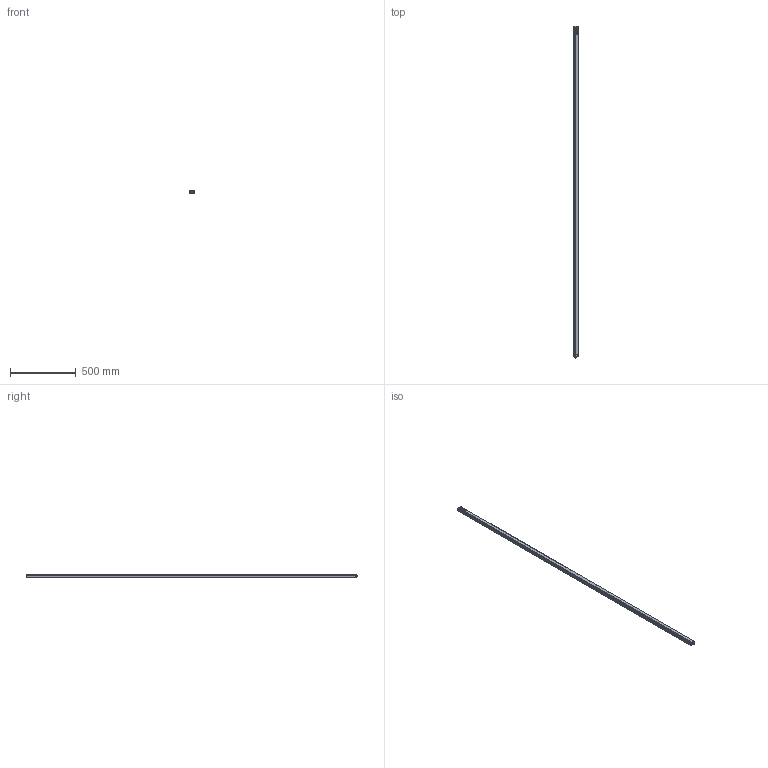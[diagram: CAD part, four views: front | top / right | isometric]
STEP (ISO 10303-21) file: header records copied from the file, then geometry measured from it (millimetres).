
FILE_DESCRIPTION(/* description */ (''),/* implementation_level */ '2;1');
FILE_NAME(/* name */ 'C:\Users\andre\SynologyDrive\Optoscan\Libreria Componenti\00 - Barriere\Polaris sorgente\Polaris_2500_TX.stp',/* time_stamp */ '2021-06-04T11:29:42+02:00',/* author */ ('andre'),/* organization */ (''),/* preprocessor_version */ 'ST-DEVELOPER v18',/* originating_system */ 'Autodesk Inventor 2020',/* authorisation */ '');
FILE_SCHEMA (('AUTOMOTIVE_DESIGN { 1 0 10303 214 3 1 1 }'));
Length unit declared in the file: millimetre
Products named in the file (1): Polaris_2500_TX
Bounding box: 40.5 x 2528.8 x 20.75 mm (x, y, z)
Volume: 496037.3 mm3; surface area: 657136.2 mm2
Topology: 1 solids, 1 shells, 738 faces, 2048 edges, 1320 vertices
Faces by surface type: plane 331, cylinder 207, bspline 115, torus 71, cone 8, sphere 6
Full cylindrical faces by diameter (mm): 1 x8, 2.459 x4, 2.5 x4, 3 x4, 3.5 x4, 5.5 x4, 8 x1, 10.5 x2, 11.75 x9, 12 x1, 12.3 x2, 14.5 x1, 16.7 x1, 17.5 x1
Entity records: 30426 total; most frequent: CARTESIAN_POINT 11243, ORIENTED_EDGE 4082, DIRECTION 3549, EDGE_CURVE 2041, VERTEX_POINT 1321, AXIS2_PLACEMENT_3D 1243, LINE 1063, VECTOR 1063
